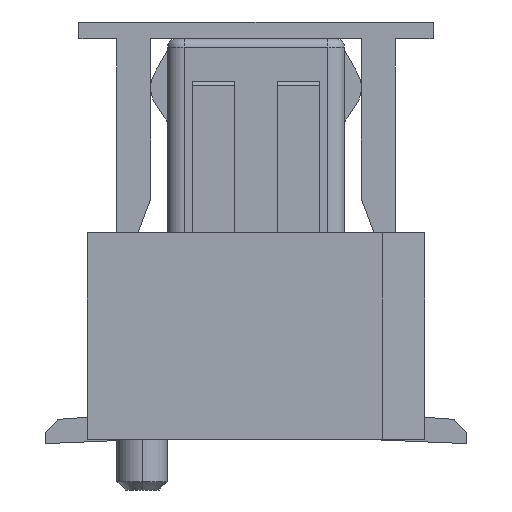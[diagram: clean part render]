
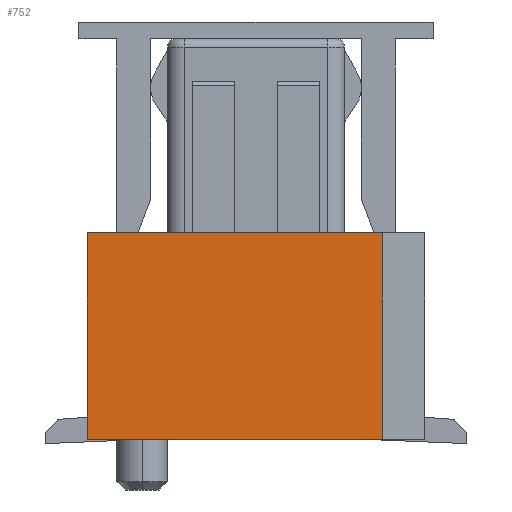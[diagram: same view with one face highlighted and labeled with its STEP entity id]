
A CAD part, left-side view. The second image highlights one B-rep face of the part: STEP entity #752.
In plain terms, the highlighted planar face has unit normal (-1, 0, 0).
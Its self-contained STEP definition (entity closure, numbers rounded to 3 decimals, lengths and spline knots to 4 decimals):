
#713=CARTESIAN_POINT('Axis2P3D Location',(-10.95,0.,0.)) ;
#718=CARTESIAN_POINT('Line Origine',(-10.95,-1.5,1.225)) ;
#722=CARTESIAN_POINT('Vertex',(-10.95,-1.5,2.45)) ;
#724=CARTESIAN_POINT('Vertex',(-10.95,-1.5,0.)) ;
#727=CARTESIAN_POINT('Line Origine',(-10.95,0.25,2.45)) ;
#731=CARTESIAN_POINT('Vertex',(-10.95,2.,2.45)) ;
#734=CARTESIAN_POINT('Line Origine',(-10.95,2.,1.225)) ;
#738=CARTESIAN_POINT('Vertex',(-10.95,2.,0.)) ;
#741=CARTESIAN_POINT('Line Origine',(-10.95,0.25,0.)) ;
#714=DIRECTION('Axis2P3D Direction',(1.,0.,0.)) ;
#715=DIRECTION('Axis2P3D XDirection',(0.,1.,0.)) ;
#719=DIRECTION('Vector Direction',(0.,0.,1.)) ;
#728=DIRECTION('Vector Direction',(0.,1.,0.)) ;
#735=DIRECTION('Vector Direction',(0.,0.,1.)) ;
#742=DIRECTION('Vector Direction',(0.,-1.,0.)) ;
#716=AXIS2_PLACEMENT_3D('Plane Axis2P3D',#713,#714,#715) ;
#747=ORIENTED_EDGE('',*,*,#726,.F.) ;
#748=ORIENTED_EDGE('',*,*,#733,.F.) ;
#749=ORIENTED_EDGE('',*,*,#740,.F.) ;
#750=ORIENTED_EDGE('',*,*,#745,.F.) ;
#720=VECTOR('Line Direction',#719,1.) ;
#729=VECTOR('Line Direction',#728,1.) ;
#736=VECTOR('Line Direction',#735,1.) ;
#743=VECTOR('Line Direction',#742,1.) ;
#752=ADVANCED_FACE('\X2\96F64EF651E04F554F53\X0\',(#751),#717,.F.) ;
#726=EDGE_CURVE('',#723,#725,#721,.F.) ;
#733=EDGE_CURVE('',#732,#723,#730,.F.) ;
#740=EDGE_CURVE('',#739,#732,#737,.T.) ;
#745=EDGE_CURVE('',#725,#739,#744,.F.) ;
#746=EDGE_LOOP('',(#747,#748,#749,#750)) ;
#751=FACE_OUTER_BOUND('',#746,.T.) ;
#721=LINE('Line',#718,#720) ;
#730=LINE('Line',#727,#729) ;
#737=LINE('Line',#734,#736) ;
#744=LINE('Line',#741,#743) ;
#717=PLANE('Plane',#716) ;
#723=VERTEX_POINT('',#722) ;
#725=VERTEX_POINT('',#724) ;
#732=VERTEX_POINT('',#731) ;
#739=VERTEX_POINT('',#738) ;
